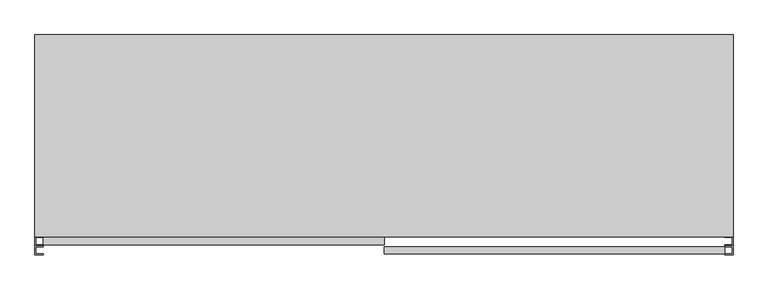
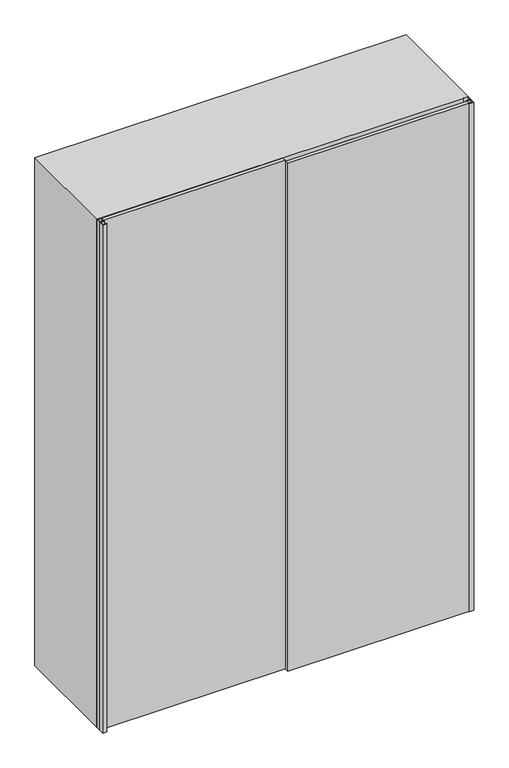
"""IFC4 building model written with IfcOpenShell, lengths in millimetres: furniture geometry, ARQ-MB-IN-Mad-Me : ARQ-MB-IN-152x220-Mad-Me1."""

from ifc_helpers import new_model, si_unit, frame, origin, origin_with_axes, place, context, project, spatial, polyline, outline, extrude, source, transform, mapped, element, save


def furniture_e91b6440(model_context):
    return source(origin(), model_context, "Body", "SweptSolid", [
        extrude(outline(polyline([(2182.0, 53.7003264), (2182.0, 35.7003264), (1682.6666667, 35.7003264), (1682.6666667, -697.2996736), (1664.6666667, -697.2996736), (1664.6666667, 35.7003264), (1165.3333333, 35.7003264), (1165.3333333, -697.2996736), (1147.3333333, -697.2996736), (1147.3333333, 35.7003264), (648.0, 35.7003264), (648.0, -697.2996736), (630.0, -697.2996736), (630.0, 786.7003264), (648.0, 786.7003264), (648.0, 53.7003264), (1147.3333333, 53.7003264), (1147.3333333, 786.7003264), (1165.3333333, 786.7003264), (1165.3333333, 53.7003264), (1664.6666667, 53.7003264), (1664.6666667, 786.7003264), (1682.6666667, 786.7003264), (1682.6666667, 53.7003264), (2182.0, 53.7003264)])), frame((0.0, -340.0, 0.0), z_axis=(0.0, 1.0, 0.0), x_axis=(0.0, 0.0, 1.0)), (0.0, 0.0, 1.0), 440.0),
        extrude(outline(polyline([(2200.0, 804.7003264), (2200.0, -715.2996736), (0.0, -715.2996736), (0.0, -697.2996736), (82.0, -697.2996736), (82.0, 786.7003264), (0.0, 786.7003264), (0.0, 804.7003264), (2200.0, 804.7003264)]), holes=[polyline([(100.0, 786.7003264), (100.0, -697.2996736), (2182.0, -697.2996736), (2182.0, 786.7003264), (100.0, 786.7003264)])]), frame((0.0, -340.0, 0.0), z_axis=(0.0, 1.0, 0.0), x_axis=(0.0, 0.0, 1.0)), (0.0, 0.0, 1.0), 440.0),
        extrude(outline(polyline([(786.7003264, -378.0), (44.7003264, -378.0), (44.7003264, -362.0), (786.7003264, -362.0), (786.7003264, -378.0)])), origin_with_axes(), (0.0, 0.0, 1.0), 2200.0),
        extrude(outline(polyline([(804.7003264, -360.0), (804.7003264, -380.0), (786.7003264, -380.0), (786.7003264, -378.0), (802.7003264, -378.0), (802.7003264, -362.0), (786.7003264, -362.0), (786.7003264, -360.0), (804.7003264, -360.0)])), origin_with_axes(), (0.0, 0.0, 1.0), 2200.0),
        extrude(outline(polyline([(804.7003264, -340.0), (804.7003264, -360.0), (786.7003264, -360.0), (786.7003264, -358.0), (802.7003264, -358.0), (802.7003264, -342.0), (786.7003264, -342.0), (786.7003264, -340.0), (804.7003264, -340.0)])), origin_with_axes(), (0.0, 0.0, 1.0), 2200.0),
        extrude(outline(polyline([(-715.2996736, -380.0), (-715.2996736, -360.0), (-697.2996736, -360.0), (-697.2996736, -362.0), (-713.2996736, -362.0), (-713.2996736, -378.0), (-697.2996736, -378.0), (-697.2996736, -380.0), (-715.2996736, -380.0)])), origin_with_axes(), (0.0, 0.0, 1.0), 2200.0),
        extrude(outline(polyline([(-697.2996736, -340.0), (-697.2996736, -342.0), (-713.2996736, -342.0), (-713.2996736, -358.0), (-697.2996736, -358.0), (-697.2996736, -360.0), (-715.2996736, -360.0), (-715.2996736, -340.0), (-697.2996736, -340.0)])), origin_with_axes(), (0.0, 0.0, 1.0), 2200.0),
        extrude(outline(polyline([(44.7003264, -358.0), (-697.2996736, -358.0), (-697.2996736, -342.0), (44.7003264, -342.0), (44.7003264, -358.0)])), origin_with_axes(), (0.0, 0.0, 1.0), 2200.0),
    ])


if __name__ == "__main__":
    model = new_model("IFC4")
    model_context = context("Model", 3, world=origin())
    ifc_project = project(units=[si_unit("LENGTHUNIT", "METRE", prefix="MILLI")], contexts=[model_context])
    site = spatial("IfcSite", under=ifc_project)
    building = spatial("IfcBuilding", under=site)
    placement = place(None, origin())
    furniture_shape = furniture_e91b6440(model_context)
    element("IfcFurniture", 1, ObjectType="ARQ-MB-IN-Mad-Me : ARQ-MB-IN-152x220-Mad-Me1", at=placement, inside=building, context=model_context, shape_type="MappedRepresentation", body=[
        mapped(furniture_shape, transform((0.0, 0.0, 0.0), x_axis=(1.0, 0.0, 0.0), y_axis=(0.0, 1.0, 0.0), z_axis=(0.0, 0.0, 1.0))),
    ])
    save(model, "model.ifc")
